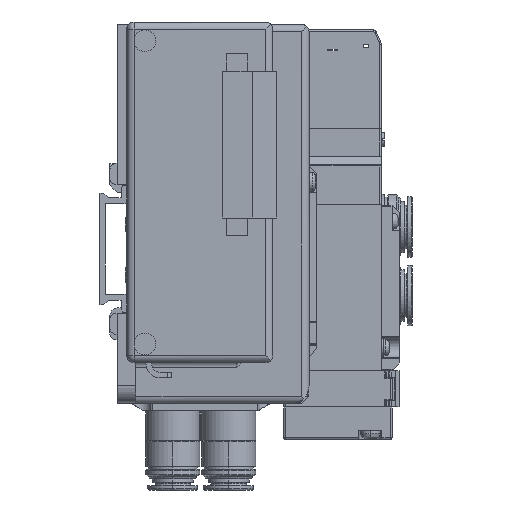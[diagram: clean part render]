
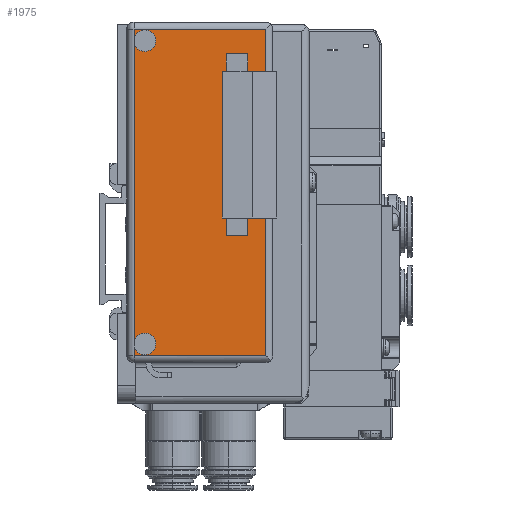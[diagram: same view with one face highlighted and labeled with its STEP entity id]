
A CAD part, left-side view. The second image highlights one B-rep face of the part: STEP entity #1975.
In plain terms, the highlighted planar face has unit normal (-1, 0, 0).
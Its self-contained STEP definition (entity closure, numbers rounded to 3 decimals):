
#1975=ADVANCED_FACE('',(#13941,#13942),#13940,.F.);
#13940=PLANE('',#26680);
#13941=FACE_OUTER_BOUND('',#26681,.T.);
#13942=FACE_BOUND('',#26682,.T.);
#26677=CARTESIAN_POINT('',(-50.,-49.65,72.335));
#26678=DIRECTION('',(1.,0.,0.));
#26679=DIRECTION('',(0.,0.,-1.));
#26680=AXIS2_PLACEMENT_3D('',#26677,#26678,#26679);
#26681=EDGE_LOOP('',(#36647,#36648,#36649,#36650,#36651,#36652,#36653,#36654,#36655,#36656,#36657,#36658));
#26682=EDGE_LOOP('',(#36659,#36660,#36661,#36662,#36663,#36664,#36665,#36666));
#36647=ORIENTED_EDGE('',*,*,#42713,.T.);
#36648=ORIENTED_EDGE('',*,*,#42714,.T.);
#36649=ORIENTED_EDGE('',*,*,#42715,.T.);
#36650=ORIENTED_EDGE('',*,*,#42716,.T.);
#36651=ORIENTED_EDGE('',*,*,#42717,.F.);
#36652=ORIENTED_EDGE('',*,*,#42718,.F.);
#36653=ORIENTED_EDGE('',*,*,#42719,.F.);
#36654=ORIENTED_EDGE('',*,*,#42720,.T.);
#36655=ORIENTED_EDGE('',*,*,#42721,.F.);
#36656=ORIENTED_EDGE('',*,*,#42722,.F.);
#36657=ORIENTED_EDGE('',*,*,#42723,.F.);
#36658=ORIENTED_EDGE('',*,*,#42724,.T.);
#36659=ORIENTED_EDGE('',*,*,#42725,.F.);
#36660=ORIENTED_EDGE('',*,*,#42726,.T.);
#36661=ORIENTED_EDGE('',*,*,#42727,.T.);
#36662=ORIENTED_EDGE('',*,*,#42728,.T.);
#36663=ORIENTED_EDGE('',*,*,#42729,.F.);
#36664=ORIENTED_EDGE('',*,*,#42730,.T.);
#36665=ORIENTED_EDGE('',*,*,#42731,.T.);
#36666=ORIENTED_EDGE('',*,*,#42732,.F.);
#42713=EDGE_CURVE('',#64037,#64038,#64039,.T.);
#42714=EDGE_CURVE('',#64038,#64045,#64046,.T.);
#42715=EDGE_CURVE('',#64045,#64052,#64053,.T.);
#42716=EDGE_CURVE('',#64052,#64059,#64060,.T.);
#42717=EDGE_CURVE('',#64066,#64059,#64067,.T.);
#42718=EDGE_CURVE('',#64073,#64066,#64074,.T.);
#42719=EDGE_CURVE('',#64059,#64073,#64080,.T.);
#42720=EDGE_CURVE('',#64059,#64086,#64087,.T.);
#42721=EDGE_CURVE('',#64093,#64086,#64094,.T.);
#42722=EDGE_CURVE('',#64100,#64093,#64101,.T.);
#42723=EDGE_CURVE('',#64086,#64100,#64107,.T.);
#42724=EDGE_CURVE('',#64086,#64037,#64113,.T.);
#42725=EDGE_CURVE('',#64119,#64120,#64121,.T.);
#42726=EDGE_CURVE('',#64119,#64127,#64128,.T.);
#42727=EDGE_CURVE('',#64127,#64134,#64135,.T.);
#42728=EDGE_CURVE('',#64134,#64141,#64142,.T.);
#42729=EDGE_CURVE('',#64148,#64141,#64149,.T.);
#42730=EDGE_CURVE('',#64148,#64155,#64156,.T.);
#42731=EDGE_CURVE('',#64155,#64162,#64163,.T.);
#42732=EDGE_CURVE('',#64120,#64162,#64169,.T.);
#64037=VERTEX_POINT('',#85768);
#64038=VERTEX_POINT('',#85769);
#64039=LINE('',#85770,#85771);
#64045=VERTEX_POINT('',#85773);
#64046=LINE('',#85774,#85775);
#64052=VERTEX_POINT('',#85777);
#64053=LINE('',#85778,#85779);
#64059=VERTEX_POINT('',#85781);
#64060=LINE('',#85782,#85783);
#64066=VERTEX_POINT('',#85785);
#64067=CIRCLE('',#85789,3.);
#64073=VERTEX_POINT('',#85790);
#64074=CIRCLE('',#85794,3.);
#64080=CIRCLE('',#85798,3.);
#64086=VERTEX_POINT('',#85799);
#64087=LINE('',#85800,#85801);
#64093=VERTEX_POINT('',#85803);
#64094=CIRCLE('',#85807,3.);
#64100=VERTEX_POINT('',#85808);
#64101=CIRCLE('',#85812,3.);
#64107=CIRCLE('',#85816,3.);
#64113=LINE('',#85817,#85818);
#64119=VERTEX_POINT('',#85820);
#64120=VERTEX_POINT('',#85821);
#64121=LINE('',#85822,#85823);
#64127=VERTEX_POINT('',#85825);
#64128=LINE('',#85826,#85827);
#64134=VERTEX_POINT('',#85829);
#64135=LINE('',#85830,#85831);
#64141=VERTEX_POINT('',#85833);
#64142=LINE('',#85834,#85835);
#64148=VERTEX_POINT('',#85837);
#64149=LINE('',#85838,#85839);
#64155=VERTEX_POINT('',#85841);
#64156=LINE('',#85842,#85843);
#64162=VERTEX_POINT('',#85845);
#64163=LINE('',#85846,#85847);
#64169=LINE('',#85849,#85850);
#85768=CARTESIAN_POINT('',(-50.,-9.5,-29.5));
#85769=CARTESIAN_POINT('',(-50.,-46.,-29.5));
#85770=CARTESIAN_POINT('',(-50.,-9.5,-29.5));
#85771=VECTOR('',#85772,36.5);
#85772=DIRECTION('',(0.,-1.,0.));
#85773=CARTESIAN_POINT('',(-50.,-46.,60.9));
#85774=CARTESIAN_POINT('',(-50.,-46.,-29.5));
#85775=VECTOR('',#85776,90.4);
#85776=DIRECTION('',(0.,0.,1.));
#85777=CARTESIAN_POINT('',(-50.,-9.5,60.9));
#85778=CARTESIAN_POINT('',(-50.,-46.,60.9));
#85779=VECTOR('',#85780,36.5);
#85780=DIRECTION('',(0.,1.,0.));
#85781=CARTESIAN_POINT('',(-50.,-9.5,57.7));
#85782=CARTESIAN_POINT('',(-50.,-9.5,60.9));
#85783=VECTOR('',#85784,3.2);
#85784=DIRECTION('',(0.,0.,-1.));
#85785=CARTESIAN_POINT('',(-50.,-12.5,60.7));
#85786=CARTESIAN_POINT('',(-50.,-12.5,57.7));
#85787=DIRECTION('',(-1.,0.,0.));
#85788=DIRECTION('',(0.,1.,0.));
#85789=AXIS2_PLACEMENT_3D('',#85786,#85787,#85788);
#85790=CARTESIAN_POINT('',(-50.,-12.5,54.7));
#85791=CARTESIAN_POINT('',(-50.,-12.5,57.7));
#85792=DIRECTION('',(-1.,0.,0.));
#85793=DIRECTION('',(0.,1.,0.));
#85794=AXIS2_PLACEMENT_3D('',#85791,#85792,#85793);
#85795=CARTESIAN_POINT('',(-50.,-12.5,57.7));
#85796=DIRECTION('',(-1.,0.,0.));
#85797=DIRECTION('',(0.,1.,0.));
#85798=AXIS2_PLACEMENT_3D('',#85795,#85796,#85797);
#85799=CARTESIAN_POINT('',(-50.,-9.5,-26.3));
#85800=CARTESIAN_POINT('',(-50.,-9.5,57.7));
#85801=VECTOR('',#85802,84.);
#85802=DIRECTION('',(0.,0.,-1.));
#85803=CARTESIAN_POINT('',(-50.,-12.5,-23.3));
#85804=CARTESIAN_POINT('',(-50.,-12.5,-26.3));
#85805=DIRECTION('',(-1.,0.,0.));
#85806=DIRECTION('',(0.,1.,0.));
#85807=AXIS2_PLACEMENT_3D('',#85804,#85805,#85806);
#85808=CARTESIAN_POINT('',(-50.,-12.5,-29.3));
#85809=CARTESIAN_POINT('',(-50.,-12.5,-26.3));
#85810=DIRECTION('',(-1.,0.,0.));
#85811=DIRECTION('',(0.,1.,0.));
#85812=AXIS2_PLACEMENT_3D('',#85809,#85810,#85811);
#85813=CARTESIAN_POINT('',(-50.,-12.5,-26.3));
#85814=DIRECTION('',(-1.,0.,0.));
#85815=DIRECTION('',(0.,1.,0.));
#85816=AXIS2_PLACEMENT_3D('',#85813,#85814,#85815);
#85817=CARTESIAN_POINT('',(-50.,-9.5,-26.3));
#85818=VECTOR('',#85819,3.2);
#85819=DIRECTION('',(0.,0.,-1.));
#85820=CARTESIAN_POINT('',(-50.,-41.,54.12));
#85821=CARTESIAN_POINT('',(-50.,-35.,54.12));
#85822=CARTESIAN_POINT('',(-50.,-41.,54.12));
#85823=VECTOR('',#85824,6.);
#85824=DIRECTION('',(0.,1.,0.));
#85825=CARTESIAN_POINT('',(-50.,-41.,49.22));
#85826=CARTESIAN_POINT('',(-50.,-41.,54.12));
#85827=VECTOR('',#85828,4.9);
#85828=DIRECTION('',(0.,0.,-1.));
#85829=CARTESIAN_POINT('',(-50.,-44.5,49.22));
#85830=CARTESIAN_POINT('',(-50.,-41.,49.22));
#85831=VECTOR('',#85832,3.5);
#85832=DIRECTION('',(0.,-1.,0.));
#85833=CARTESIAN_POINT('',(-50.,-44.5,8.58));
#85834=CARTESIAN_POINT('',(-50.,-44.5,49.22));
#85835=VECTOR('',#85836,40.64);
#85836=DIRECTION('',(0.,0.,-1.));
#85837=CARTESIAN_POINT('',(-50.,-41.,8.58));
#85838=CARTESIAN_POINT('',(-50.,-41.,8.58));
#85839=VECTOR('',#85840,3.5);
#85840=DIRECTION('',(0.,-1.,0.));
#85841=CARTESIAN_POINT('',(-50.,-41.,3.68));
#85842=CARTESIAN_POINT('',(-50.,-41.,8.58));
#85843=VECTOR('',#85844,4.9);
#85844=DIRECTION('',(0.,0.,-1.));
#85845=CARTESIAN_POINT('',(-50.,-35.,3.68));
#85846=CARTESIAN_POINT('',(-50.,-41.,3.68));
#85847=VECTOR('',#85848,6.);
#85848=DIRECTION('',(0.,1.,0.));
#85849=CARTESIAN_POINT('',(-50.,-35.,54.12));
#85850=VECTOR('',#85851,50.44);
#85851=DIRECTION('',(0.,0.,-1.));
